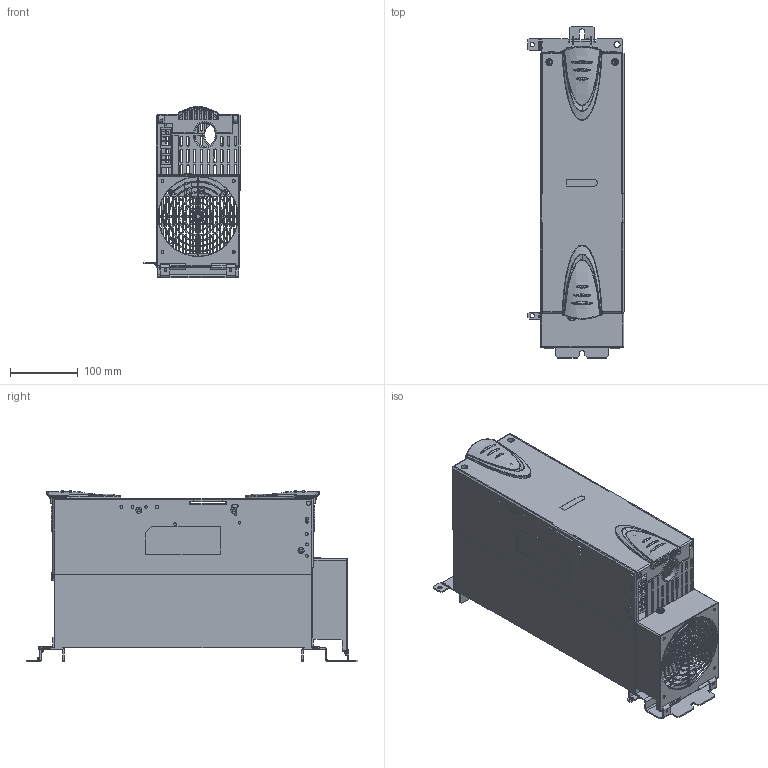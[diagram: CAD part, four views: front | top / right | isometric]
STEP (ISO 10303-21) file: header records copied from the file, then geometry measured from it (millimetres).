
FILE_DESCRIPTION((''),'2;1');
FILE_NAME('E-POWER_400A_IGES','2012-01-23T',('chrisloe'),(''),'PRO/ENGINEER BY PARAMETRIC TECHNOLOGY CORPORATION, 2010180','PRO/ENGINEER BY PARAMETRIC TECHNOLOGY CORPORATION, 2010180','');
FILE_SCHEMA(('CONFIG_CONTROL_DESIGN'));
Products named in the file (1): E-POWER_400A_IGES
Bounding box: 142 x 489.5 x 252.18 mm (x, y, z)
Volume: 3218979.8 mm3; surface area: 2489539.8 mm2
Topology: 1 solids, 13 shells, 4267 faces, 11537 edges, 7251 vertices
Faces by surface type: plane 2703, cylinder 814, bspline 233, cone 229, torus 220, sphere 40, extrusion 28
Entity records: 154166 total; most frequent: CARTESIAN_POINT 48642, ORIENTED_EDGE 23010, DIRECTION 20044, EDGE_CURVE 11505, VECTOR 8198, LINE 8170, VERTEX_POINT 7250, AXIS2_PLACEMENT_3D 5923
